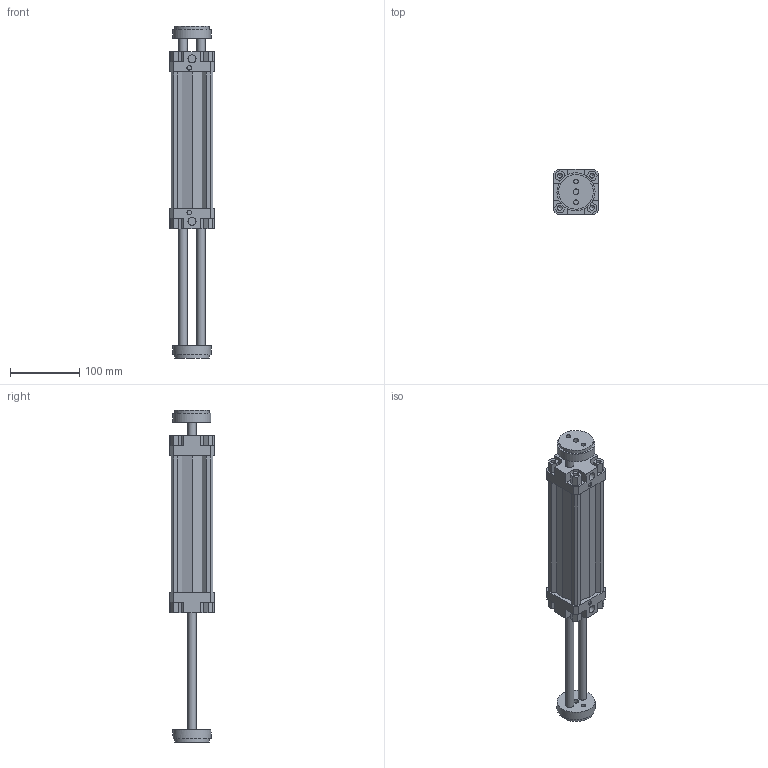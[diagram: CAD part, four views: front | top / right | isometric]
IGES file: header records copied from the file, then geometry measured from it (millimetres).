
Global section: file name: 132#_050_0150_06; native system: Autodesk Inventor 2014; preprocessor: unknown; author: A. Manieri; date: 20161006.155733; units: millimetre
Bounding box: 65 x 65 x 480 mm (x, y, z)
Volume: 669351.4 mm3; surface area: 181676 mm2
Topology: 2 solids, 2 shells, 190 faces, 518 edges, 354 vertices
Faces by surface type: bspline 190
